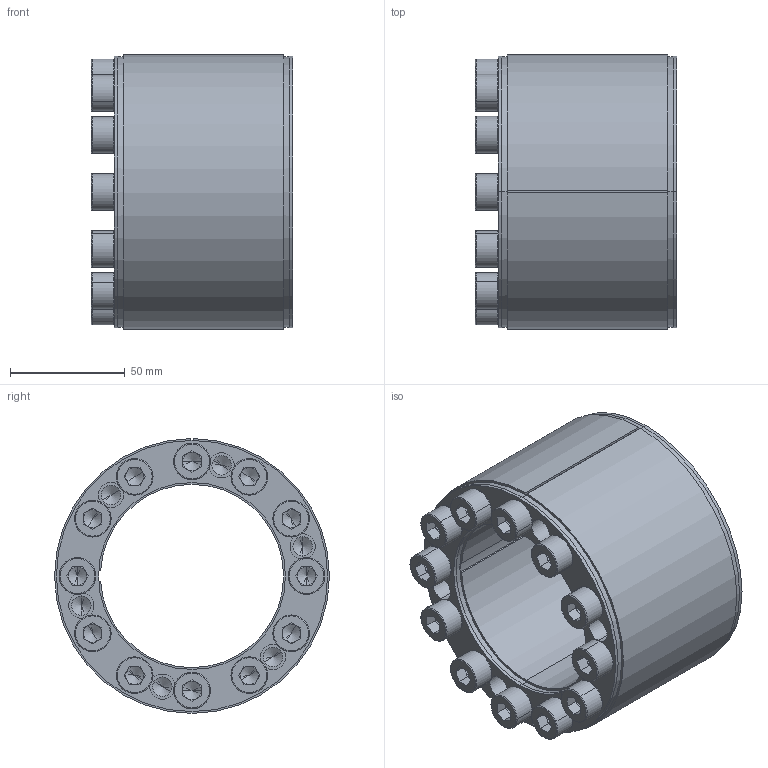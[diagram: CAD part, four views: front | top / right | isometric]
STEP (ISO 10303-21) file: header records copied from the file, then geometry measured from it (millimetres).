
FILE_DESCRIPTION (( 'STEP AP203' ), '1' );
FILE_NAME ('SAPL-D4-80-120.STEP', '2019-10-21T08:28:07', ( '' ), ( '' ), 'SwSTEP 2.0', 'SolidWorks 2015', '' );
FILE_SCHEMA (( 'CONFIG_CONTROL_DESIGN' ));
Length unit declared in the file: millimetre
Products named in the file (3): socket head cap screw_ks_KS 1003 - M10 x 70 x 32-N; SAPL-D4-80-120; D4-80-120 B
Assembly tree (13 placements, depth 2):
  SAPL-D4-80-120
    D4-80-120 B
    socket head cap screw_ks_KS 1003 - M10 x 70 x 32-N  x12
Bounding box: 88 x 120 x 120 mm (x, y, z)
Volume: 502366.6 mm3; surface area: 130805.5 mm2
Topology: 13 solids, 13 shells, 470 faces, 1032 edges, 590 vertices
Faces by surface type: plane 197, cylinder 133, torus 72, cone 68
Entity records: 4355 total; most frequent: DIRECTION 742, CARTESIAN_POINT 620, ORIENTED_EDGE 584, AXIS2_PLACEMENT_3D 305, EDGE_CURVE 292, VERTEX_POINT 183, EDGE_LOOP 171, CIRCLE 160
